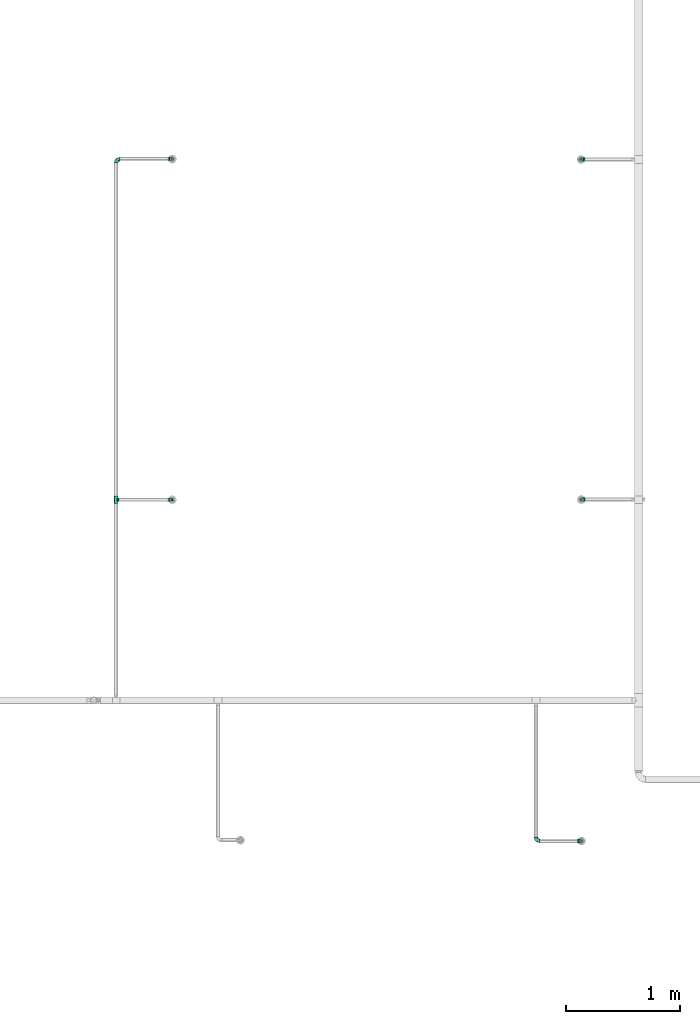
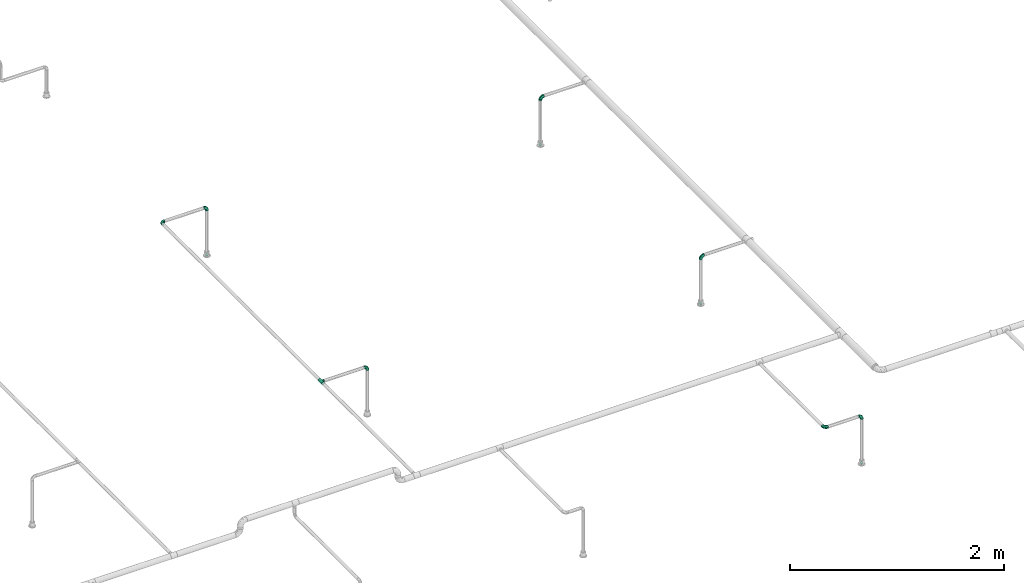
# One storey, part 72 of 95: 12 flow fittings.
"""IFC2X3 building model written with IfcOpenShell, lengths in millimetres."""

from ifc_helpers import new_model, entity, si_unit, converted_unit, derived_unit, direction, frame, origin_with_axes, place, context, subcontext, project, spatial, open_shell, surface_model, source, transform, mapped, type_object, element, save


model = new_model("IFC2X3")

# Units and contexts
model_context = context("Model", 3, precision=0.01, world=frame((0.0, 4.29681676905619e-09, 0.0)), true_north=direction((4.01073788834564e-13, 1.0)))
plan_context = context("Plan", 3, precision=0.01, world=frame((0.0, 4.29681676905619e-09, 0.0)), true_north=direction((4.01073788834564e-13, 1.0)))
body_context = subcontext(model_context, "Body", "Model", "MODEL_VIEW")
ifc_project = project(units=[converted_unit("PLANEANGLEUNIT", "DEGREE", entity("IfcPositiveLengthMeasure", 0.0174532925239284), si_unit("PLANEANGLEUNIT", "RADIAN"), dimensions=[0, 0, 0, 0, 0, 0, 0]), si_unit("AREAUNIT", "SQUARE_METRE"), si_unit("LENGTHUNIT", "METRE", prefix="MILLI"), si_unit("MASSUNIT", "GRAM", prefix="KILO"), si_unit("POWERUNIT", "WATT"), si_unit("PRESSUREUNIT", "PASCAL"), si_unit("FORCEUNIT", "NEWTON", prefix="KILO"), si_unit("ELECTRICVOLTAGEUNIT", "VOLT"), si_unit("ELECTRICCURRENTUNIT", "AMPERE"), si_unit("THERMODYNAMICTEMPERATUREUNIT", "DEGREE_CELSIUS"), si_unit("TIMEUNIT", "SECOND"), si_unit("VOLUMEUNIT", "CUBIC_METRE"), derived_unit("LINEARVELOCITYUNIT", [(si_unit("LENGTHUNIT", "METRE"), 1), (si_unit("TIMEUNIT", "SECOND"), -1)]), derived_unit("VOLUMETRICFLOWRATEUNIT", [(si_unit("VOLUMEUNIT", "CUBIC_METRE"), 1), (si_unit("TIMEUNIT", "SECOND"), -1)]), derived_unit("THERMALTRANSMITTANCEUNIT", [(si_unit("POWERUNIT", "WATT"), 1), (si_unit("THERMODYNAMICTEMPERATUREUNIT", "KELVIN"), -1), (si_unit("AREAUNIT", "SQUARE_METRE"), -1)]), derived_unit("SOUNDPRESSUREUNIT", [(si_unit("PRESSUREUNIT", "PASCAL"), 1)])], contexts=[model_context, plan_context])

# Site, building, storey
site_placement = place(None, frame((0.0, -4.29681676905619e-09, 0.0), z_axis=(0.0, 0.0, 1.0), x_axis=(1.0, 0.0, 0.0)))
site = spatial("IfcSite", under=ifc_project, at=site_placement, CompositionType="ELEMENT")
building_placement = place(site_placement, frame((0.0, 4.29681676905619e-09, 0.0), z_axis=(0.0, 0.0, 1.0), x_axis=(1.0, 0.0, 0.0)))
building = spatial("IfcBuilding", under=site, at=building_placement, Name="mc-building", CompositionType="ELEMENT")
storey_placement = place(building_placement, frame((0.0, 0.0, 210900.0), z_axis=(0.0, 0.0, 1.0), x_axis=(1.0, 0.0, 0.0)))
storey = spatial("IfcBuildingStorey", under=building, at=storey_placement, Name="Nivå F", CompositionType="ELEMENT", Elevation=210900.0)

# Flow fittings
pipe_fitting_type_1 = type_object("IfcPipeFittingType", Name="magi_pipe_fe_reducer_centric_short_NOR", PredefinedType="TRANSITION")
shared_shape_1 = source(origin_with_axes(), body_context, "Body", "SurfaceModel", [
    surface_model("IfcShellBasedSurfaceModel", [(14.4, 5.35, -9.26647), (14.4, 0.0, -10.7), (14.4, 2.76936, -10.33541), (14.4, 10.33541, -2.76936), (14.4, 7.56604, -7.56604), (14.4, -10.33541, -2.76936), (14.4, 9.26647, -5.35), (14.4, 0.0, 10.7), (14.4, -5.35, -9.26647), (14.4, -2.76936, -10.33541), (14.4, -7.56604, -7.56604), (14.4, -9.26647, -5.35), (14.4, 10.7, 0.0), (14.4, 10.33541, 2.76936), (14.4, 9.26647, 5.35), (14.4, 7.56604, 7.56604), (14.4, 2.76936, 10.33541), (14.4, 5.35, 9.26647), (14.4, -10.33541, 2.76936), (14.4, -7.56604, 7.56604), (14.4, -9.26647, 5.35), (14.4, -10.7, 0.0), (14.4, -2.76936, 10.33541), (14.4, -5.35, 9.26647), (12.4, 2.76936, 10.33541), (12.4, -10.33541, -2.76936), (12.4, 0.0, 10.7), (12.4, 5.35, 9.26647), (12.4, 7.56604, 7.56604), (12.4, 9.26647, 5.35), (12.4, 10.33541, 2.76936), (12.4, -10.33541, 2.76936), (12.4, -2.76936, 10.33541), (12.4, -7.56604, 7.56604), (12.4, -5.35, 9.26647), (12.4, -9.26647, 5.35), (12.4, -10.7, 0.0), (12.4, 10.33541, -2.76936), (12.4, 5.35, -9.26647), (12.4, 9.26647, -5.35), (12.4, 7.56604, -7.56604), (12.4, 2.76936, -10.33541), (12.4, -9.26647, -5.35), (12.4, -5.35, -9.26647), (12.4, -7.56604, -7.56604), (12.4, 0.0, -10.7), (12.4, -2.76936, -10.33541), (12.4, 10.7, 0.0), (-2.0, 11.9501, 11.9501), (-2.0, 0.0, 16.9), (-2.0, 4.37404, 16.32415), (-2.0, 8.45, 14.63583), (-2.0, 14.63583, 8.45), (-2.0, 16.32415, 4.37404), (-2.0, -16.32415, 4.37404), (-2.0, -8.45, 14.63583), (-2.0, -14.63583, 8.45), (-2.0, -11.9501, 11.9501), (-2.0, -4.37404, 16.32415), (-2.0, -16.32415, -4.37404), (-2.0, -16.9, 0.0), (-2.0, -8.45, -14.63583), (-2.0, 16.32415, -4.37404), (-2.0, 11.9501, -11.9501), (-2.0, 14.63583, -8.45), (-2.0, 8.45, -14.63583), (-2.0, 4.37404, -16.32415), (-2.0, 0.0, -16.9), (-2.0, -11.9501, -11.9501), (-2.0, -14.63583, -8.45), (-2.0, -4.37404, -16.32415), (-2.0, 16.9, 0.0), (0.0, 4.37404, -16.32415), (0.0, 8.45, -14.63583), (0.0, 11.9501, -11.9501), (0.0, 0.0, -16.9), (0.0, 16.32415, -4.37404), (0.0, 16.32415, 4.37404), (0.0, 14.63583, -8.45), (0.0, -8.45, -14.63583), (0.0, -4.37404, -16.32415), (0.0, -11.9501, -11.9501), (0.0, -16.32415, -4.37404), (0.0, -14.63583, -8.45), (0.0, -16.32415, 4.37404), (0.0, 16.9, 0.0), (0.0, 14.63583, 8.45), (0.0, 11.9501, 11.9501), (0.0, 4.37404, 16.32415), (0.0, 8.45, 14.63583), (0.0, 0.0, 16.9), (0.0, -14.63583, 8.45), (0.0, -16.9, 0.0), (0.0, -8.45, 14.63583), (0.0, -11.9501, 11.9501), (0.0, -4.37404, 16.32415), (12.4, 9.3625, -2.31662), (0.0, 14.42505, -5.97505), (0.0, 15.66253, -2.98753), (12.4, -6.6875, -6.94985), (0.0, -13.18758, -8.96258), (0.0, 2.98753, -15.66253), (12.4, 0.0, -9.26647), (12.4, 6.6875, -6.94985), (0.0, 8.96258, -13.18758), (12.4, -9.3625, -2.31662), (0.0, -15.66253, -2.98753), (0.0, -14.42505, -5.97505), (0.0, 5.97505, -14.42505), (0.0, -2.98753, -15.66253), (0.0, -8.96258, -13.18758), (0.0, 13.18758, -8.96258), (12.4, 8.025, -4.63324), (12.4, -2.675, -9.26647), (12.4, 2.675, -9.26647), (0.0, -5.97505, -14.42505), (12.4, -8.025, -4.63324), (12.4, -9.3625, 2.31662), (0.0, -14.42505, 5.97505), (0.0, -15.66253, 2.98753), (12.4, 6.6875, 6.94985), (0.0, 13.18758, 8.96258), (0.0, -2.98753, 15.66253), (12.4, 0.0, 9.26647), (12.4, -6.6875, 6.94985), (0.0, -8.96258, 13.18758), (12.4, 9.3625, 2.31662), (0.0, 15.66253, 2.98753), (0.0, 14.42505, 5.97505), (0.0, -5.97505, 14.42505), (0.0, 2.98753, 15.66253), (0.0, 8.96258, 13.18758), (0.0, -13.18758, 8.96258), (12.4, -8.025, 4.63324), (12.4, 2.675, 9.26647), (12.4, -2.675, 9.26647), (0.0, 5.97505, 14.42505), (12.4, 8.025, 4.63324)], [open_shell([[[0, 1, 2]], [[3, 0, 4]], [[5, 0, 3]], [[3, 4, 6]], [[7, 5, 3]], [[1, 8, 9]], [[1, 0, 8]], [[10, 5, 11]], [[5, 10, 8]], [[0, 5, 8]], [[3, 12, 13]], [[13, 14, 15]], [[13, 15, 16]], [[7, 3, 16]], [[16, 15, 17]], [[7, 18, 5]], [[18, 19, 20]], [[21, 5, 18]], [[19, 22, 23]], [[22, 19, 18]], [[7, 22, 18]], [[13, 16, 3]], [[24, 25, 26]], [[27, 25, 24]], [[28, 29, 30]], [[28, 25, 27]], [[31, 26, 25]], [[32, 33, 34]], [[33, 32, 31]], [[33, 31, 35]], [[32, 26, 31]], [[31, 25, 36]], [[30, 37, 28]], [[25, 28, 37]], [[38, 37, 39]], [[37, 38, 25]], [[38, 39, 40]], [[41, 25, 38]], [[42, 43, 44]], [[43, 42, 25]], [[43, 45, 46]], [[43, 25, 41]], [[41, 45, 43]], [[37, 30, 47]], [[25, 5, 36]], [[42, 11, 25]], [[8, 44, 43]], [[42, 44, 10]], [[9, 43, 46]], [[25, 11, 5]], [[5, 21, 36]], [[9, 8, 43]], [[10, 44, 8]], [[10, 11, 42]], [[1, 9, 46]], [[46, 45, 1]], [[41, 2, 45]], [[38, 0, 41]], [[6, 40, 39]], [[38, 40, 4]], [[3, 39, 37]], [[38, 4, 0]], [[0, 2, 41]], [[12, 3, 37]], [[6, 39, 3]], [[6, 4, 40]], [[47, 12, 37]], [[45, 2, 1]], [[30, 13, 47]], [[29, 14, 30]], [[17, 28, 27]], [[29, 28, 15]], [[16, 27, 24]], [[30, 14, 13]], [[13, 12, 47]], [[16, 17, 27]], [[15, 28, 17]], [[15, 14, 29]], [[7, 16, 24]], [[24, 26, 7]], [[32, 22, 26]], [[34, 23, 32]], [[20, 33, 35]], [[34, 33, 19]], [[18, 35, 31]], [[34, 19, 23]], [[23, 22, 32]], [[21, 18, 31]], [[20, 35, 18]], [[20, 19, 33]], [[36, 21, 31]], [[26, 22, 7]], [[48, 49, 50]], [[48, 50, 51]], [[48, 52, 53]], [[48, 53, 49]], [[49, 53, 54]], [[55, 56, 57]], [[55, 58, 49]], [[56, 55, 49]], [[49, 54, 56]], [[54, 59, 60]], [[54, 53, 61]], [[53, 62, 63]], [[63, 62, 64]], [[63, 65, 66]], [[61, 53, 63]], [[67, 63, 66]], [[59, 68, 69]], [[68, 59, 61]], [[61, 67, 70]], [[59, 54, 61]], [[63, 67, 61]], [[53, 71, 62]], [[72, 73, 74]], [[75, 72, 74]], [[74, 76, 77]], [[76, 74, 78]], [[74, 77, 79]], [[75, 79, 80]], [[75, 74, 79]], [[81, 82, 83]], [[82, 81, 79]], [[79, 84, 82]], [[77, 76, 85]], [[77, 86, 87]], [[77, 87, 88]], [[88, 84, 79]], [[88, 87, 89]], [[84, 88, 90]], [[90, 91, 84]], [[92, 82, 84]], [[91, 93, 94]], [[91, 90, 93]], [[93, 90, 95]], [[79, 77, 88]], [[59, 82, 60]], [[69, 83, 59]], [[79, 68, 61]], [[69, 68, 81]], [[80, 61, 70]], [[59, 83, 82]], [[82, 92, 60]], [[80, 79, 61]], [[81, 68, 79]], [[81, 83, 69]], [[75, 80, 70]], [[70, 67, 75]], [[66, 72, 67]], [[65, 73, 66]], [[78, 63, 64]], [[65, 63, 74]], [[76, 64, 62]], [[65, 74, 73]], [[73, 72, 66]], [[85, 76, 62]], [[78, 64, 76]], [[78, 74, 63]], [[71, 85, 62]], [[67, 72, 75]], [[53, 77, 71]], [[52, 86, 53]], [[89, 48, 51]], [[52, 48, 87]], [[88, 51, 50]], [[53, 86, 77]], [[77, 85, 71]], [[88, 89, 51]], [[87, 48, 89]], [[87, 86, 52]], [[90, 88, 50]], [[50, 49, 90]], [[58, 95, 49]], [[55, 93, 58]], [[91, 57, 56]], [[55, 57, 94]], [[84, 56, 54]], [[55, 94, 93]], [[93, 95, 58]], [[92, 84, 54]], [[91, 56, 84]], [[91, 94, 57]], [[60, 92, 54]], [[49, 95, 90]], [[27, 34, 47]], [[47, 34, 43]], [[43, 38, 47]], [[43, 34, 36]], [[90, 87, 94]], [[92, 94, 87]], [[87, 74, 92]], [[75, 92, 74]], [[81, 92, 75]], [[74, 87, 85]], [[96, 97, 98]], [[81, 99, 100]], [[101, 102, 75]], [[98, 85, 47]], [[74, 103, 104]], [[104, 103, 38]], [[105, 106, 107]], [[38, 108, 104]], [[102, 109, 75]], [[110, 99, 81]], [[47, 96, 98]], [[103, 111, 112]], [[109, 102, 113]], [[36, 92, 106]], [[102, 101, 114]], [[110, 115, 43]], [[96, 112, 97]], [[107, 116, 105]], [[36, 106, 105]], [[113, 115, 109]], [[43, 115, 113]], [[116, 107, 100]], [[108, 38, 114]], [[111, 103, 74]], [[111, 97, 112]], [[99, 110, 43]], [[116, 100, 99]], [[101, 108, 114]], [[117, 118, 119]], [[87, 120, 121]], [[122, 123, 90]], [[119, 92, 36]], [[94, 124, 125]], [[125, 124, 34]], [[126, 127, 128]], [[34, 129, 125]], [[123, 130, 90]], [[131, 120, 87]], [[36, 117, 119]], [[124, 132, 133]], [[130, 123, 134]], [[47, 85, 127]], [[123, 122, 135]], [[131, 136, 27]], [[117, 133, 118]], [[128, 137, 126]], [[47, 127, 126]], [[134, 136, 130]], [[27, 136, 134]], [[137, 128, 121]], [[129, 34, 135]], [[132, 124, 94]], [[132, 118, 133]], [[120, 131, 27]], [[137, 121, 120]], [[122, 129, 135]]])]),
])
for number, where, z_axis, x_axis, name in (
    (1, (534095.66035, 455598.02191, 3769.25200000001), (0.0, -1.0, 0.0), (0.0, 0.0, -1.0), "magi_pipe_fe_reducer_centric_short_NOR"),
    (2, (534099.81038, 449600.84543, 3769.25200000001), (-0.000893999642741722, -0.99999960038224, 0.0), (0.0, 0.0, -1.0), "magi_pipe_fe_reducer_centric_short_NOR"),
    (3, (534097.84018, 452605.11719, 3769.25200000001), (-0.000893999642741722, -0.99999960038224, 0.0), (0.0, 0.0, -1.0), "magi_pipe_fe_reducer_centric_short_NOR"),
    (4, (530498.24193, 455602.4924, 3769.25200000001), (1.0, 0.0, 0.0), (0.0, 0.0, -1.0), "magi_pipe_fe_reducer_centric_short_NOR"),
):
    element("IfcFlowFitting", number, at=place(storey_placement, frame(where, z_axis=z_axis, x_axis=x_axis)), inside=storey, type_object=pipe_fitting_type_1, Name=name, context=body_context, shape_type="MappedRepresentation", body=[
        mapped(shared_shape_1, transform((0.0, 0.0, 0.0), scale=1.0)),
    ])
pipe_fitting_type_2 = type_object("IfcPipeFittingType", Name="magi_pipe_fe_elbow_short_001", PredefinedType="BEND")
shared_shape_2 = source(origin_with_axes(), body_context, "Body", "SurfaceModel", [
    surface_model("IfcShellBasedSurfaceModel", [(-33.8, 8.45, -14.63583), (-33.8, 4.37404, -16.32415), (-33.8, 11.9501, -11.9501), (-33.8, -11.9501, -11.9501), (-33.8, -14.63583, -8.45), (-33.8, -8.45, -14.63583), (-33.8, 0.0, -16.9), (-33.8, -4.37404, -16.32415), (-33.8, -4.37404, 16.32415), (-33.8, 0.0, 16.9), (-33.8, -8.45, 14.63583), (-33.8, 16.32415, -4.37404), (-33.8, 14.63583, -8.45), (-33.8, -16.32415, -4.37404), (-33.8, -16.9, 0.0), (-33.8, -16.32415, 4.37404), (-33.8, 11.9501, 11.9501), (-33.8, 14.63583, 8.45), (-33.8, 16.32415, 4.37404), (-33.8, 4.37404, 16.32415), (-33.8, 8.45, 14.63583), (-33.8, -14.63583, 8.45), (-33.8, -11.9501, 11.9501), (-33.8, 16.9, 0.0), (-11.9501, 33.8, -11.9501), (0.0, 33.8, -16.9), (-4.37404, 33.8, -16.32415), (-8.45, 33.8, -14.63583), (-14.63583, 33.8, -8.45), (-16.32415, 33.8, -4.37404), (14.63583, 33.8, -8.45), (8.45, 33.8, 14.63583), (16.32415, 33.8, -4.37404), (8.45, 33.8, -14.63583), (11.9501, 33.8, -11.9501), (4.37404, 33.8, -16.32415), (16.32415, 33.8, 4.37404), (16.9, 33.8, 0.0), (-11.9501, 33.8, 11.9501), (-16.32415, 33.8, 4.37404), (-14.63583, 33.8, 8.45), (-8.45, 33.8, 14.63583), (-4.37404, 33.8, 16.32415), (11.9501, 33.8, 11.9501), (14.63583, 33.8, 8.45), (0.0, 33.8, 16.9), (4.37404, 33.8, 16.32415), (-16.9, 33.8, 0.0), (-24.79389, -13.12945, 9.48721), (-22.19287, -9.75018, 12.59315), (-24.09897, -14.97035, 0.0), (-14.93934, -10.76256, 8.5297), (-22.46095, -14.75051, 5.27077), (14.75051, 22.46094, 5.27077), (11.9251, 13.23888, 4.33236), (13.04069, 14.39795, 0.0), (7.71387, 13.68847, 11.55891), (9.75018, 22.19287, 12.59315), (4.10169, 13.0571, 14.04018), (-24.84007, -6.39063, 15.2048), (-25.81779, -2.23879, 16.61097), (-23.66549, 2.59054, 16.87119), (-26.50418, 14.06512, 11.08152), (-24.21253, 17.66365, 7.72657), (-29.58514, 15.86957, 7.00283), (-6.17382, -7.5455, 0.0), (-13.23888, -11.9251, 4.33236), (-14.39795, -13.04069, 0.0), (-17.81434, 18.87373, 11.97104), (-6.30846, 29.15138, 15.82987), (-2.31622, 25.28002, 16.85849), (-29.23923, 10.23435, 13.77053), (-1.45439, -2.85688, 7.61475), (-0.28326, 0.34872, 10.09509), (-5.74484, -4.04709, 10.4122), (-4.41137, 11.31918, 16.59407), (-8.39727, 3.10034, 15.7812), (-1.72649, 9.1306, 15.53089), (-17.39909, 24.75344, 7.64977), (-26.19233, 20.0512, 0.0), (-28.14518, 17.29657, 4.25857), (-26.05147, 6.6281, 15.96447), (-5.87354, 16.61944, 16.86968), (-12.51807, 12.51807, 16.48937), (-10.06312, 7.38516, 16.81295), (-3.01882, 3.01882, 13.81718), (-13.0571, -4.10169, 14.04018), (-16.82553, -0.15166, 16.38038), (10.76256, 14.93934, 8.5297), (13.12945, 24.79389, 9.48721), (6.39063, 24.84007, 15.2048), (2.23879, 25.81779, 16.61097), (-13.68847, -7.71387, 11.55891), (14.97035, 24.09897, 0.0), (-7.30894, 22.89991, 16.09489), (-10.67958, 26.17414, 14.008), (-12.78295, 18.26924, 15.06066), (-13.88562, 22.45231, 12.93244), (-18.04944, 15.16501, 14.04434), (-23.11658, 20.08178, 4.02986), (-21.84989, 21.84989, 0.0), (-18.55817, 25.48277, 3.93065), (-13.95142, 26.94732, 11.03289), (-18.57098, 7.23906, 16.59756), (-16.58335, 4.14122, 16.89279), (-17.96666, 11.46709, 15.63151), (-9.84453, 17.54304, 16.18938), (0.15166, 16.82553, 16.38038), (-23.27207, 11.47201, 14.23154), (3.84842, 5.86994, 10.70473), (-8.0212, -7.54413, 7.93275), (1.00345, -2.19508, 4.57414), (5.13203, 3.01004, 5.90201), (5.24161, 1.7543, 2.53265), (8.70457, 7.04947, 3.99182), (-20.0512, 26.19233, 0.0), (8.4852, 8.76699, 7.09296), (-4.55488, -6.72064, 4.90681), (2.05031, -2.05031, 0.0), (7.5455, 6.17382, 0.0), (-26.75399, 2.1369, -16.845), (-14.61995, 24.73803, -11.27736), (-28.45274, -13.45335, -9.81895), (-26.00469, 6.63555, -15.96645), (-23.06726, 20.04573, -4.26202), (-13.80647, -4.26506, -14.17873), (-14.67501, -0.21081, -16.07388), (-6.7902, -0.2828, -13.8478), (-24.53586, 11.08096, -14.13417), (-26.72048, 14.00837, -11.05776), (10.0967, 24.44989, -12.75976), (5.83237, 21.40218, -15.03047), (6.66249, 28.54238, -15.38093), (-20.38182, 15.48705, -12.74596), (12.53268, 21.23441, -9.15363), (12.54494, 15.67504, -5.54878), (9.7522, 12.89279, -8.66343), (-15.65186, 19.64213, -13.01327), (-12.03528, 20.66498, -14.67665), (-15.61907, 15.61906, -14.83879), (-25.56551, -15.26206, 0.0), (-24.65452, -15.12934, -5.50955), (13.45335, 28.45274, -9.81895), (15.12934, 24.65452, -5.50955), (-7.35442, -8.31014, -5.65563), (-15.67504, -12.54494, -5.54878), (-24.44989, -10.0967, -12.75976), (0.16522, 0.41303, -9.71728), (-5.70658, -5.33066, -8.89288), (-5.13869, -2.37198, -11.53565), (-21.23441, -12.53268, -9.15363), (0.71146, 7.93863, -14.09382), (0.21081, 14.67501, -16.07388), (3.49291, 14.42772, -14.76381), (-24.89911, -2.13088, -16.591), (-28.54238, -6.66249, -15.38093), (-18.44386, -7.71663, -13.26957), (2.13088, 24.89911, -16.591), (-28.64342, 17.44413, -2.89318), (1.70017, -1.28722, -5.09504), (-16.57067, 26.81947, -7.36596), (-17.69055, 27.4263, -3.76405), (-12.89279, -9.7522, -8.66343), (-5.96611, 5.96611, -15.95814), (-20.53709, 20.09345, -8.28985), (-2.1369, 26.75399, -16.845), (-6.89872, 24.58781, -16.02578), (-10.60739, 26.53157, -13.98044), (-21.40218, -5.83237, -15.03047), (2.93192, 5.89627, -11.55917), (6.89393, 12.61842, -11.82233), (5.58056, 5.95325, -8.79455), (-3.99512, 18.61798, -16.89635), (8.31014, 7.35442, -5.65563), (-9.1383, 9.86148, -16.89041), (-9.99983, 16.02119, -16.39699), (-16.68576, 9.78031, -16.34199), (-27.01915, 16.61158, -7.12979), (15.26206, 25.56551, 0.0), (-18.61798, 3.99512, -16.89635), (-19.37495, 27.82495, 0.0), (-12.61842, -6.89393, -11.82233), (-18.84705, 19.14018, -10.96545)], [open_shell([[[0, 1, 2]], [[3, 4, 5]], [[6, 7, 5]], [[8, 9, 10]], [[1, 6, 2]], [[11, 12, 2]], [[4, 2, 6]], [[2, 13, 10]], [[5, 4, 6]], [[2, 4, 13]], [[14, 15, 13]], [[11, 2, 16]], [[11, 17, 18]], [[11, 16, 17]], [[19, 20, 16]], [[16, 2, 10]], [[19, 16, 10]], [[21, 22, 15]], [[22, 13, 15]], [[22, 10, 13]], [[10, 9, 19]], [[11, 18, 23]], [[24, 25, 26]], [[24, 26, 27]], [[24, 28, 29]], [[25, 24, 30]], [[31, 32, 24]], [[33, 30, 34]], [[33, 35, 25]], [[25, 30, 33]], [[32, 30, 24]], [[32, 36, 37]], [[38, 24, 29]], [[39, 40, 29]], [[40, 38, 29]], [[38, 41, 42]], [[38, 31, 24]], [[31, 38, 42]], [[36, 43, 44]], [[36, 32, 43]], [[31, 45, 46]], [[32, 31, 43]], [[42, 45, 31]], [[39, 29, 47]], [[22, 48, 49]], [[15, 14, 50]], [[51, 48, 52]], [[53, 54, 55]], [[48, 22, 21]], [[15, 52, 21]], [[56, 57, 58]], [[49, 10, 22]], [[49, 59, 10]], [[9, 60, 61]], [[62, 63, 64]], [[65, 66, 67]], [[57, 43, 31]], [[62, 68, 63]], [[42, 69, 70]], [[20, 71, 16]], [[8, 60, 9]], [[72, 73, 74]], [[75, 76, 77]], [[16, 62, 17]], [[40, 39, 78]], [[79, 23, 80]], [[64, 18, 17]], [[9, 61, 19]], [[19, 81, 20]], [[82, 83, 84]], [[74, 85, 86]], [[59, 86, 87]], [[88, 89, 57]], [[90, 31, 46]], [[44, 53, 36]], [[46, 45, 91]], [[54, 53, 88]], [[44, 89, 53]], [[92, 86, 49]], [[89, 44, 43]], [[10, 59, 8]], [[53, 55, 93]], [[93, 36, 53]], [[66, 52, 67]], [[94, 82, 70]], [[95, 96, 94]], [[97, 98, 96]], [[79, 99, 100]], [[41, 38, 95]], [[101, 100, 99]], [[68, 78, 63]], [[42, 41, 69]], [[23, 18, 80]], [[95, 94, 69]], [[78, 101, 99]], [[38, 102, 95]], [[70, 45, 42]], [[97, 95, 102]], [[15, 50, 52]], [[90, 57, 31]], [[57, 90, 58]], [[81, 19, 61]], [[103, 104, 84]], [[105, 81, 103]], [[38, 40, 102]], [[106, 96, 83]], [[94, 106, 82]], [[91, 70, 107]], [[71, 62, 16]], [[62, 108, 98]], [[86, 59, 49]], [[67, 52, 50]], [[60, 59, 87]], [[92, 49, 51]], [[86, 85, 76]], [[91, 90, 46]], [[37, 36, 93]], [[107, 77, 58]], [[107, 58, 90]], [[58, 85, 109]], [[110, 74, 92]], [[72, 74, 110]], [[66, 51, 52]], [[72, 111, 112]], [[113, 114, 112]], [[56, 88, 57]], [[52, 48, 21]], [[49, 48, 51]], [[57, 89, 43]], [[53, 89, 88]], [[103, 81, 61]], [[71, 81, 108]], [[18, 64, 80]], [[63, 78, 99]], [[47, 115, 101]], [[101, 115, 100]], [[40, 78, 102]], [[68, 102, 78]], [[97, 96, 95]], [[105, 98, 108]], [[103, 84, 83]], [[107, 70, 82]], [[76, 84, 87]], [[82, 84, 75]], [[70, 91, 45]], [[90, 91, 107]], [[59, 60, 8]], [[61, 60, 87]], [[73, 85, 74]], [[109, 112, 116]], [[103, 61, 104]], [[105, 103, 83]], [[96, 105, 83]], [[81, 105, 108]], [[96, 98, 105]], [[62, 98, 68]], [[61, 87, 104]], [[87, 84, 104]], [[86, 76, 87]], [[77, 76, 85]], [[58, 77, 85]], [[75, 77, 107]], [[82, 75, 107]], [[76, 75, 84]], [[81, 71, 20]], [[62, 71, 108]], [[95, 69, 41]], [[70, 69, 94]], [[62, 64, 17]], [[80, 63, 99]], [[63, 80, 64]], [[80, 99, 79]], [[66, 65, 117]], [[110, 66, 117]], [[112, 114, 116]], [[118, 117, 65]], [[110, 92, 51]], [[112, 111, 113]], [[119, 55, 54]], [[74, 86, 92]], [[58, 109, 56]], [[116, 56, 109]], [[66, 110, 51]], [[72, 110, 117]], [[111, 72, 117]], [[73, 112, 109]], [[117, 118, 111]], [[113, 111, 118]], [[118, 119, 113]], [[114, 119, 54]], [[119, 114, 113]], [[116, 54, 88]], [[54, 116, 114]], [[116, 88, 56]], [[112, 73, 72]], [[85, 73, 109]], [[78, 39, 101]], [[47, 101, 39]], [[102, 68, 97]], [[97, 68, 98]], [[82, 106, 83]], [[94, 96, 106]], [[1, 120, 6]], [[28, 24, 121]], [[3, 122, 4]], [[0, 123, 1]], [[100, 124, 79]], [[125, 126, 127]], [[128, 2, 129]], [[130, 131, 132]], [[128, 129, 133]], [[134, 135, 136]], [[137, 138, 139]], [[128, 0, 2]], [[67, 140, 141]], [[134, 142, 143]], [[141, 13, 4]], [[144, 65, 145]], [[146, 3, 5]], [[147, 148, 149]], [[145, 141, 150]], [[151, 152, 153]], [[154, 7, 6]], [[5, 155, 146]], [[150, 146, 156]], [[155, 5, 7]], [[143, 135, 134]], [[35, 157, 25]], [[23, 79, 158]], [[148, 159, 144]], [[160, 161, 29]], [[145, 162, 144]], [[163, 152, 151]], [[29, 28, 160]], [[121, 164, 160]], [[33, 34, 130]], [[25, 165, 26]], [[26, 165, 166]], [[142, 34, 30]], [[24, 27, 167]], [[124, 161, 164]], [[157, 35, 132]], [[155, 154, 168]], [[123, 0, 128]], [[169, 170, 171]], [[172, 157, 152]], [[26, 166, 27]], [[132, 35, 33]], [[142, 130, 34]], [[168, 154, 126]], [[136, 135, 173]], [[133, 137, 139]], [[2, 12, 129]], [[170, 131, 130]], [[30, 32, 143]], [[172, 174, 175]], [[176, 123, 128]], [[158, 177, 11]], [[135, 55, 119]], [[167, 27, 166]], [[175, 166, 172]], [[137, 167, 138]], [[122, 141, 4]], [[140, 14, 13]], [[32, 37, 178]], [[170, 130, 134]], [[152, 157, 131]], [[165, 157, 172]], [[153, 170, 151]], [[152, 163, 174]], [[168, 125, 156]], [[122, 146, 150]], [[120, 154, 6]], [[179, 174, 126]], [[179, 126, 154]], [[126, 163, 127]], [[162, 145, 150]], [[140, 13, 141]], [[32, 178, 143]], [[55, 143, 178]], [[177, 129, 12]], [[128, 133, 139]], [[176, 128, 139]], [[120, 123, 179]], [[121, 160, 28]], [[161, 100, 180]], [[166, 175, 138]], [[121, 24, 167]], [[161, 47, 29]], [[79, 124, 158]], [[124, 164, 177]], [[161, 124, 100]], [[136, 171, 170]], [[127, 163, 151]], [[147, 171, 159]], [[148, 144, 162]], [[127, 151, 169]], [[127, 181, 125]], [[129, 177, 164]], [[12, 11, 177]], [[159, 65, 144]], [[67, 141, 145]], [[143, 55, 135]], [[135, 119, 173]], [[123, 120, 1]], [[154, 120, 179]], [[157, 165, 25]], [[166, 165, 172]], [[172, 152, 174]], [[176, 139, 175]], [[126, 174, 163]], [[176, 174, 179]], [[174, 176, 175]], [[123, 176, 179]], [[150, 181, 162]], [[127, 149, 181]], [[181, 148, 162]], [[159, 148, 147]], [[171, 136, 173]], [[170, 134, 136]], [[159, 171, 173]], [[171, 147, 169]], [[169, 147, 149]], [[151, 170, 169]], [[164, 182, 129]], [[182, 121, 137]], [[181, 149, 148]], [[169, 149, 127]], [[182, 137, 133]], [[167, 137, 121]], [[166, 138, 167]], [[175, 139, 138]], [[129, 182, 133]], [[121, 182, 164]], [[161, 160, 164]], [[47, 161, 180]], [[177, 158, 124]], [[23, 158, 11]], [[130, 132, 33]], [[157, 132, 131]], [[143, 142, 30]], [[130, 142, 134]], [[154, 155, 7]], [[146, 155, 168]], [[146, 122, 3]], [[141, 122, 150]], [[152, 131, 153]], [[159, 119, 118]], [[67, 145, 65]], [[170, 153, 131]], [[119, 159, 173]], [[159, 118, 65]], [[156, 125, 181]], [[126, 125, 168]], [[150, 156, 181]], [[168, 156, 146]]])]),
])
for number, where, z_axis, x_axis, name in (
    (5, (534095.66035, 455598.02191, 4310.0), (0.0, -1.0, 0.0), (-1.0, 0.0, 0.0), "magi_pipe_fe_elbow_short_001"),
    (6, (533699.81038, 449600.84543, 4310.0), (0.0, 0.0, 1.0), (0.0, -1.0, 0.0), "magi_pipe_fe_elbow_short_001"),
    (7, (534099.81038, 449600.84543, 4310.0), (0.0, 1.0, 0.0), (1.0, 0.0, 0.0), "magi_pipe_fe_elbow_short_001"),
    (8, (530003.88278, 455602.4924, 4310.0), (0.0, 0.0, 1.0), (-1.0, 0.0, 0.0), "magi_pipe_fe_elbow_short_001"),
    (9, (530498.24193, 452603.51992, 4310.0), (0.0, -1.0, 0.0), (0.0, 0.0, 1.0), "magi_pipe_fe_elbow_short_001"),
    (10, (530498.24193, 455602.4924, 4310.0), (0.0, 1.0, 0.0), (1.0, 0.0, 0.0), "magi_pipe_fe_elbow_short_001"),
    (11, (534097.84018, 452605.11719, 4310.0), (0.0, 1.0, 0.0), (0.0, 0.0, 1.0), "magi_pipe_fe_elbow_short_001"),
):
    element("IfcFlowFitting", number, at=place(storey_placement, frame(where, z_axis=z_axis, x_axis=x_axis)), inside=storey, type_object=pipe_fitting_type_2, Name=name, context=body_context, shape_type="MappedRepresentation", body=[
        mapped(shared_shape_2, transform((0.0, 0.0, 0.0), scale=1.0)),
    ])
pipe_fitting_type_3 = type_object("IfcPipeFittingType", Name="magi_pipe_fe_tee_centric_90_NOR", PredefinedType="JUNCTION")
shared_shape_3 = source(origin_with_axes(), body_context, "Body", "SurfaceModel", [
    surface_model("IfcShellBasedSurfaceModel", [(-33.8, 4.37404, -16.32415), (-33.8, 0.0, -16.9), (-33.8, 16.32415, -4.37404), (-33.8, 8.45, -14.63583), (-33.8, 11.9501, -11.9501), (-33.8, 14.63583, -8.45), (-33.8, -16.9, 0.0), (-33.8, -11.9501, -11.9501), (-33.8, -14.63583, -8.45), (-33.8, -8.45, -14.63583), (-33.8, -4.37404, -16.32415), (-33.8, -16.32415, -4.37404), (-33.8, 14.63583, 8.45), (-33.8, 16.32415, 4.37404), (-33.8, -8.45, 14.63583), (-33.8, 8.45, 14.63583), (-33.8, 11.9501, 11.9501), (-33.8, 4.37404, 16.32415), (-33.8, 0.0, 16.9), (-33.8, -11.9501, 11.9501), (-33.8, -14.63583, 8.45), (-33.8, -16.32415, 4.37404), (-33.8, -4.37404, 16.32415), (-33.8, 16.9, 0.0), (33.8, 4.37404, -16.32415), (33.8, -16.9, 0.0), (33.8, 0.0, -16.9), (33.8, 14.63583, -8.45), (33.8, 8.45, -14.63583), (33.8, 16.32415, -4.37404), (33.8, 11.9501, -11.9501), (33.8, -16.32415, 4.37404), (33.8, -8.45, -14.63583), (33.8, -4.37404, -16.32415), (33.8, -11.9501, -11.9501), (33.8, -14.63583, -8.45), (33.8, -16.32415, -4.37404), (33.8, 16.32415, 4.37404), (33.8, 8.45, 14.63583), (33.8, 14.63583, 8.45), (33.8, 11.9501, 11.9501), (33.8, -8.45, 14.63583), (33.8, 4.37404, 16.32415), (33.8, -14.63583, 8.45), (33.8, -11.9501, 11.9501), (33.8, 0.0, 16.9), (33.8, -4.37404, 16.32415), (33.8, 16.9, 0.0), (16.28698, -16.28698, 4.51047), (16.9, -16.9, 0.0), (14.62704, -14.62704, 8.4652), (9.47213, -9.47213, 13.99602), (12.26343, -12.26343, 11.62834), (-16.9, -16.9, 0.0), (-16.28698, -16.28698, 4.51047), (-14.62704, -14.62704, 8.4652), (-12.26343, -12.26343, 11.62834), (-9.47213, -9.47213, 13.99602), (-6.42894, -6.42894, 15.62942), (6.42894, -6.42894, 15.62942), (3.24522, -3.24522, 16.58549), (0.0, 0.0, 16.9), (-3.24522, -3.24522, 16.58549), (3.24522, -3.24522, -16.58549), (0.0, 0.0, -16.9), (-3.24522, -3.24522, -16.58549), (-6.42894, -6.42894, -15.62942), (6.42894, -6.42894, -15.62942), (9.47213, -9.47213, -13.99602), (12.26343, -12.26343, -11.62834), (14.62704, -14.62704, -8.4652), (16.28698, -16.28698, -4.51047), (-9.47213, -9.47213, -13.99602), (-12.26343, -12.26343, -11.62834), (-16.28698, -16.28698, -4.51047), (-14.62704, -14.62704, -8.4652), (4.37404, -25.35, -16.32415), (-16.9, -25.35, 0.0), (0.0, -25.35, -16.9), (14.63583, -25.35, -8.45), (8.45, -25.35, -14.63583), (16.32415, -25.35, -4.37404), (11.9501, -25.35, -11.9501), (-11.9501, -25.35, -11.9501), (-8.45, -25.35, -14.63583), (-4.37404, -25.35, -16.32415), (-14.63583, -25.35, -8.45), (-16.32415, -25.35, -4.37404), (16.9, -25.35, 0.0), (8.45, -25.35, 14.63583), (16.32415, -25.35, 4.37404), (14.63583, -25.35, 8.45), (-8.45, -25.35, 14.63583), (11.9501, -25.35, 11.9501), (4.37404, -25.35, 16.32415), (-16.32415, -25.35, 4.37404), (-11.9501, -25.35, 11.9501), (-14.63583, -25.35, 8.45), (0.0, -25.35, 16.9), (-4.37404, -25.35, 16.32415)], [open_shell([[[0, 1, 2]], [[3, 0, 4]], [[0, 2, 5]], [[4, 0, 5]], [[6, 2, 1]], [[7, 8, 9]], [[1, 10, 9]], [[11, 6, 8]], [[1, 9, 8]], [[1, 8, 6]], [[6, 12, 2]], [[12, 13, 2]], [[14, 12, 6]], [[12, 14, 15]], [[16, 12, 15]], [[17, 15, 18]], [[19, 14, 20]], [[21, 20, 14]], [[22, 18, 14]], [[14, 6, 21]], [[14, 18, 15]], [[23, 2, 13]], [[24, 25, 26]], [[27, 24, 28]], [[27, 29, 24]], [[27, 28, 30]], [[31, 25, 24]], [[26, 32, 33]], [[26, 34, 32]], [[35, 25, 36]], [[35, 34, 26]], [[25, 35, 26]], [[24, 29, 31]], [[29, 37, 38]], [[38, 37, 39]], [[38, 31, 29]], [[38, 39, 40]], [[41, 38, 42]], [[43, 41, 44]], [[41, 43, 31]], [[41, 45, 46]], [[41, 31, 38]], [[42, 45, 41]], [[29, 47, 37]], [[31, 43, 48]], [[25, 31, 49]], [[49, 31, 48]], [[43, 50, 48]], [[44, 41, 51]], [[50, 43, 52]], [[51, 52, 44]], [[52, 43, 44]], [[53, 54, 21]], [[53, 21, 6]], [[21, 54, 20]], [[54, 55, 20]], [[56, 57, 19]], [[19, 20, 56]], [[19, 57, 14]], [[56, 20, 55]], [[14, 57, 58]], [[51, 41, 59]], [[60, 45, 61]], [[59, 46, 60]], [[46, 59, 41]], [[60, 46, 45]], [[61, 45, 42]], [[39, 37, 13]], [[16, 38, 40]], [[12, 40, 39]], [[42, 38, 15]], [[23, 37, 47]], [[62, 61, 18]], [[62, 22, 58]], [[22, 62, 18]], [[58, 22, 14]], [[61, 17, 18]], [[42, 17, 61]], [[15, 17, 42]], [[15, 38, 16]], [[12, 16, 40]], [[13, 12, 39]], [[37, 23, 13]], [[5, 27, 30]], [[23, 47, 29]], [[30, 28, 3]], [[27, 2, 29]], [[26, 33, 63]], [[26, 64, 24]], [[64, 26, 63]], [[28, 24, 0]], [[64, 0, 24]], [[4, 30, 3]], [[2, 27, 5]], [[5, 30, 4]], [[2, 23, 29]], [[65, 66, 10]], [[1, 0, 64]], [[1, 65, 10]], [[66, 9, 10]], [[0, 3, 28]], [[1, 64, 65]], [[63, 33, 67]], [[32, 34, 68]], [[69, 68, 34]], [[35, 70, 69]], [[69, 34, 35]], [[32, 68, 67]], [[36, 25, 49]], [[36, 71, 35]], [[71, 36, 49]], [[35, 71, 70]], [[72, 9, 66]], [[72, 7, 9]], [[7, 72, 73]], [[7, 73, 8]], [[74, 53, 11]], [[75, 74, 8]], [[74, 11, 8]], [[11, 53, 6]], [[75, 8, 73]], [[32, 67, 33]], [[76, 77, 78]], [[79, 76, 80]], [[79, 81, 76]], [[79, 80, 82]], [[77, 76, 81]], [[78, 83, 84]], [[84, 85, 78]], [[86, 77, 87]], [[83, 78, 86]], [[77, 86, 78]], [[81, 88, 77]], [[89, 88, 90]], [[89, 90, 91]], [[92, 77, 89]], [[89, 91, 93]], [[92, 89, 94]], [[95, 96, 97]], [[96, 95, 92]], [[92, 98, 99]], [[95, 77, 92]], [[94, 98, 92]], [[89, 77, 88]], [[77, 95, 53]], [[54, 53, 95]], [[97, 96, 56]], [[96, 92, 57]], [[95, 97, 54]], [[58, 92, 99]], [[55, 54, 97]], [[56, 55, 97]], [[58, 57, 92]], [[98, 61, 62]], [[58, 99, 62]], [[56, 96, 57]], [[62, 99, 98]], [[94, 60, 98]], [[89, 59, 94]], [[91, 90, 48]], [[52, 93, 91]], [[93, 51, 89]], [[49, 90, 88]], [[59, 60, 94]], [[51, 59, 89]], [[49, 48, 90]], [[50, 52, 91]], [[48, 50, 91]], [[51, 93, 52]], [[98, 60, 61]], [[88, 81, 49]], [[71, 49, 81]], [[79, 82, 69]], [[82, 80, 68]], [[81, 79, 71]], [[67, 80, 76]], [[70, 71, 79]], [[69, 70, 79]], [[67, 68, 80]], [[78, 64, 63]], [[67, 76, 63]], [[69, 82, 68]], [[63, 76, 78]], [[85, 65, 78]], [[84, 66, 85]], [[86, 87, 74]], [[86, 73, 83]], [[72, 84, 83]], [[53, 87, 77]], [[66, 65, 85]], [[72, 66, 84]], [[53, 74, 87]], [[75, 73, 86]], [[74, 75, 86]], [[72, 83, 73]], [[78, 65, 64]]])]),
])
flow_fitting_placement = place(storey_placement, frame((530003.88278, 452603.51992, 4310.0), z_axis=(0.0, 0.0, -1.0), x_axis=(0.0, -1.0, 0.0)))
element("IfcFlowFitting", 12, at=flow_fitting_placement, inside=storey, type_object=pipe_fitting_type_3, Name="magi_pipe_fe_tee_centric_90_NOR", context=body_context, shape_type="MappedRepresentation", body=[
    mapped(shared_shape_3, transform((0.0, 0.0, 0.0), scale=1.0)),
])

save(model, "model.ifc")
